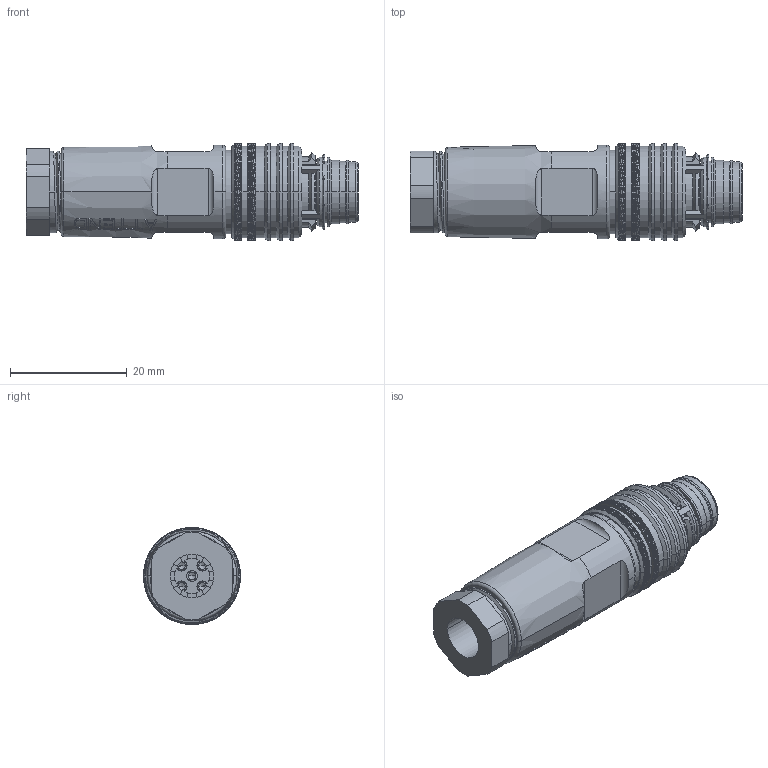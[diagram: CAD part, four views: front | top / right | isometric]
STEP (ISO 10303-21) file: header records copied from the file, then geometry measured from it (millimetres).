
FILE_DESCRIPTION((''),'2;1');
FILE_NAME('216D-05MF2_C_1_ASM','2026-04-27T',('fros.liao'),(''),'CREO PARAMETRIC BY PTC INC, 2018360','CREO PARAMETRIC BY PTC INC, 2018360','');
FILE_SCHEMA(('CONFIG_CONTROL_DESIGN'));
Products named in the file (17): SHIELD_NUT_1; PLASTIC_STRAPS_1; RUBBER_STRAPS_1; BACK_PLUG_1; BODY_1; ORING_PUSHPULL_1; THREAD_SLEEVE_ASM_2_ASM; BASE_1_1_1; HSG_1_1_1; PIN_1_1_1; LINK_1_1_1; LOCK_1_1_1; OUTSHELL_1_1_1; LOCK1_1_1_1; 216D-05MO2_C_1_ASM_1_ASM_1_ASM; 216D-05MO2_C_1_ASM_1_ASM; 216D-05MF2_C_1_ASM
Assembly tree (20 placements, depth 4):
  216D-05MF2_C_1_ASM
    THREAD_SLEEVE_ASM_2_ASM
      SHIELD_NUT_1
      PLASTIC_STRAPS_1
      RUBBER_STRAPS_1
      BACK_PLUG_1
      BODY_1
      ORING_PUSHPULL_1
    216D-05MO2_C_1_ASM_1_ASM
      216D-05MO2_C_1_ASM_1_ASM_1_ASM
        BASE_1_1_1
        HSG_1_1_1
        PIN_1_1_1  x5
        LINK_1_1_1
        LOCK_1_1_1
        OUTSHELL_1_1_1
        LOCK1_1_1_1
Bounding box: 56.8 x 16.6 x 16.6 mm (x, y, z)
Volume: 6783.4 mm3; surface area: 11963.5 mm2
Topology: 17 solids, 17 shells, 2064 faces, 4873 edges, 2870 vertices
Faces by surface type: bspline 1033, cylinder 562, plane 266, cone 137, torus 56, sphere 10
Entity records: 88984 total; most frequent: CARTESIAN_POINT 51725, ORIENTED_EDGE 9210, DIRECTION 4905, EDGE_CURVE 4605, VERTEX_POINT 2718, B_SPLINE_CURVE_WITH_KNOTS 2594, EDGE_LOOP 2009, FACE_OUTER_BOUND 1948
